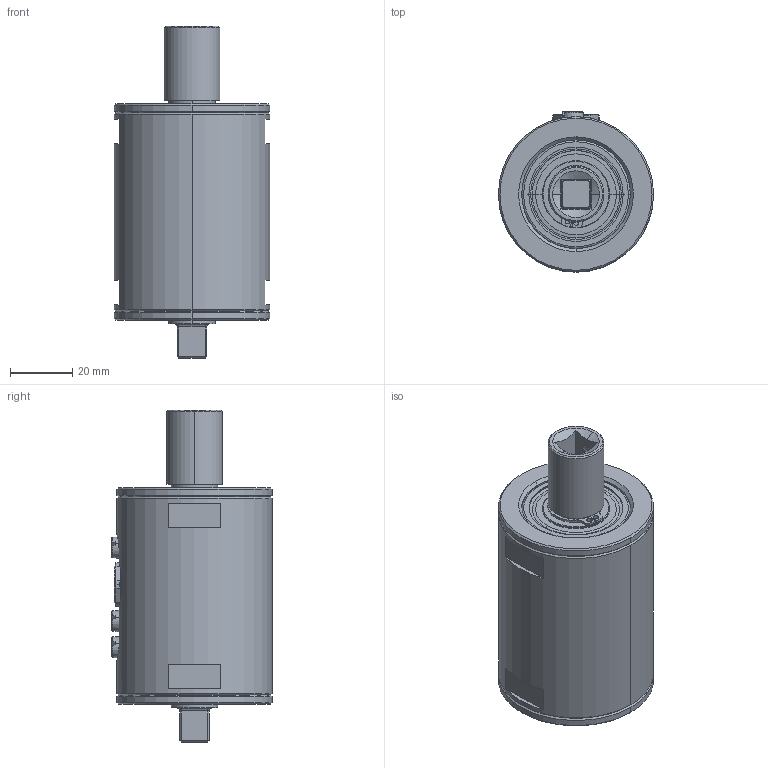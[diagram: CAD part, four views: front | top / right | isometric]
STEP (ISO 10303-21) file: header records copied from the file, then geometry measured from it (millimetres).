
FILE_DESCRIPTION (( 'STEP AP203' ), '1' );
FILE_NAME ('400006-ATS008-75Nm-15mm-Vierkant.STEP', '2017-02-20T10:09:05', ( '' ), ( '' ), 'SwSTEP 2.0', 'SolidWorks 2016', '' );
FILE_SCHEMA (( 'CONFIG_CONTROL_DESIGN' ));
Length unit declared in the file: millimetre
Products named in the file (15): 400006-ATM025_Vierkanthülse_3-8tel_Zoll; 400006-ATM003_Rohrgehäuse-50mm; Circlip DIN 471 - 15 x 1_Circlip DIN 471 - 15 x 1; 400006-ATS008-75Nm-15mm-Vierkant; 400006-ATM022_Welle 15mm Vierkant; 400006-ATM021_Lagerdeckel-15mm; ISO 1207 - M4 x 4 --- 4S_ISO 1207 - M4 x 4 --- 4S; 400006-ATM002-Mutter-Binder-Stecker; 999999-ATM001_Tellerfeder_k_vorgespannt34,6x22,4x0,5_Standard; 400006-ATE009-Binder-712-0416-90-05; ISO 1207 - M4 x 5 --- 5S_ISO 1207 - M4 x 5 --- 5S; 999999-ATN172_Rillenkugellager_6202-2Z_Standard; ISO 4762 M3 x 5 --- 5S_DIN 912 M3 x 5 --- 5S; DIN 988-25x35x0.5_DIN 988-25x35x0.5; 400006-ATS021-PCB12_mit_Stecker_Welle 15mm
Assembly tree (21 placements, depth 3):
  400006-ATS008-75Nm-15mm-Vierkant
    400006-ATM022_Welle 15mm Vierkant
    400006-ATS021-PCB12_mit_Stecker_Welle 15mm
      400006-ATE009-Binder-712-0416-90-05
    ISO 4762 M3 x 5 --- 5S_DIN 912 M3 x 5 --- 5S  x4
    400006-ATM003_Rohrgehäuse-50mm
    400006-ATM021_Lagerdeckel-15mm  x2
    DIN 988-25x35x0.5_DIN 988-25x35x0.5
    999999-ATM001_Tellerfeder_k_vorgespannt34,6x22,4x0,5_Standard
    999999-ATN172_Rillenkugellager_6202-2Z_Standard  x2
    Circlip DIN 471 - 15 x 1_Circlip DIN 471 - 15 x 1  x2
    ISO 1207 - M4 x 5 --- 5S_ISO 1207 - M4 x 5 --- 5S  x2
    ISO 1207 - M4 x 4 --- 4S_ISO 1207 - M4 x 4 --- 4S
    400006-ATM025_Vierkanthülse_3-8tel_Zoll
    400006-ATM002-Mutter-Binder-Stecker
Bounding box: 50 x 51.6 x 107 mm (x, y, z)
Volume: 78962.7 mm3; surface area: 59801.8 mm2
Topology: 42 solids, 42 shells, 1062 faces, 2570 edges, 1592 vertices
Faces by surface type: cylinder 340, cone 334, plane 256, torus 90, sphere 32, bspline 10
Entity records: 22510 total; most frequent: CARTESIAN_POINT 5059, DIRECTION 3495, ORIENTED_EDGE 3140, EDGE_CURVE 1570, AXIS2_PLACEMENT_3D 1449, VERTEX_POINT 989, CIRCLE 762, EDGE_LOOP 749
